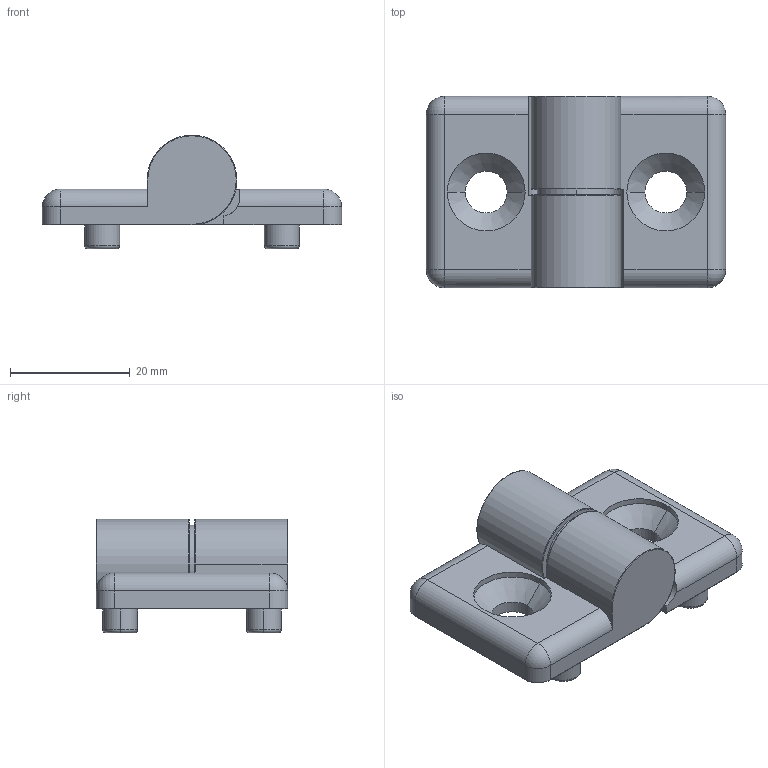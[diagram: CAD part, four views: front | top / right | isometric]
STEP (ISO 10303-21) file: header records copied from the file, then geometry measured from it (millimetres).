
FILE_DESCRIPTION (( 'STEP AP214' ), '1' );
FILE_NAME ('J3PL.step', '2017-05-24T07:46:12', ( 'admin' ), ( '' ), 'SwSTEP 2.0', 'SolidWorks 2014', '' );
FILE_SCHEMA (( 'AUTOMOTIVE_DESIGN' ));
Length unit declared in the file: millimetre
Products named in the file (4): J3PL-3; J3PL-2; J3PL-1; J3PL
Assembly tree (4 placements, depth 2):
  J3PL
    J3PL-1  x2
    J3PL-2
    J3PL-3
Bounding box: 50 x 32 x 19 mm (x, y, z)
Volume: 11558.5 mm3; surface area: 7267.2 mm2
Topology: 4 solids, 4 shells, 120 faces, 262 edges, 156 vertices
Faces by surface type: cylinder 58, plane 32, torus 16, cone 10, sphere 4
Entity records: 1985 total; most frequent: DIRECTION 369, CARTESIAN_POINT 312, ORIENTED_EDGE 284, AXIS2_PLACEMENT_3D 155, EDGE_CURVE 142, VERTEX_POINT 86, CIRCLE 81, EDGE_LOOP 76
